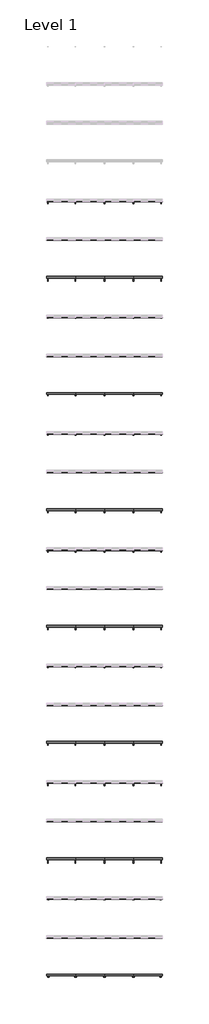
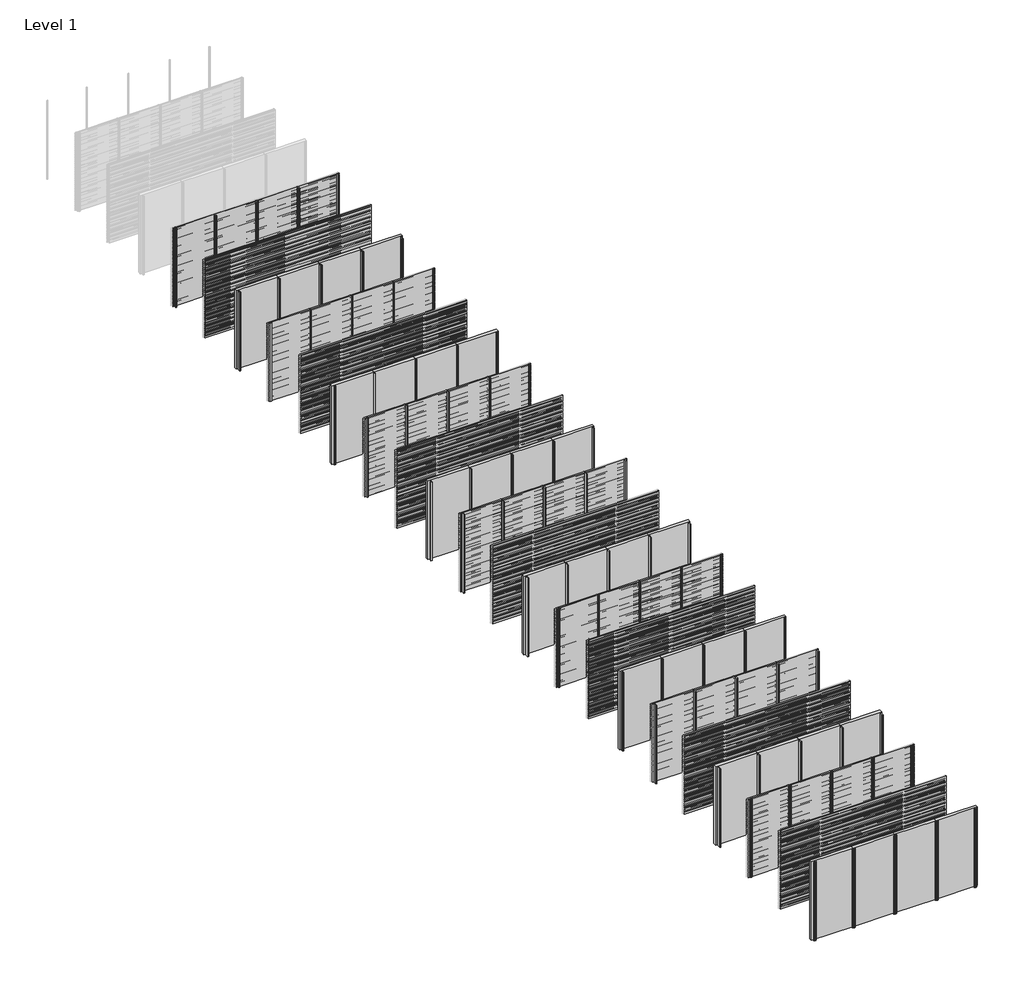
# One storey, part 1 of 173: 70 members, 63 plates.
"""IFC4 building model written with IfcOpenShell, lengths in millimetres."""

from ifc_helpers import new_model, si_unit, origin, origin_with_axes, place, context, project, spatial, polyline, outline, extrude, transform, mapped, element, save
from components import rectangular_mullion_fb497acc, rectangular_mullion_3facce28, rectangular_mullion_6cf2c509, rectangular_mullion_8b77bd57, rectangular_mullion_2c867e25, rectangular_mullion_7803f5c4, rectangular_mullion_82152e2f, rectangular_mullion_bd250e2e, rectangular_mullion_7b49c8f1, rectangular_mullion_2b84ad7e, rectangular_mullion_0fd695e7, rectangular_mullion_9b796d85, rectangular_mullion_dfb17e98, rectangular_mullion_6132f1f1, rectangular_mullion_8f153c19, rectangular_mullion_5b30f3fd, rectangular_mullion_5e0e8e0a, rectangular_mullion_d2d38772, rectangular_mullion_efb80f74, rectangular_mullion_aaa1fb1b, rectangular_mullion_ea9d012c, empty_system_panel_empty_413cb92e

model = new_model("IFC4")

# Units and contexts
model_context = context("Model", 3, world=origin())
ifc_project = project(units=[si_unit("LENGTHUNIT", "METRE", prefix="MILLI")], contexts=[model_context])

# Site, building, storey
site = spatial("IfcSite", under=ifc_project)
building = spatial("IfcBuilding", under=site)
storey = spatial("IfcBuildingStorey", under=building, Name="Level 1", Elevation=0.0)

# Members
placement = place(None, origin())
rectangular_mullion_shape = rectangular_mullion_fb497acc(model_context)
element("IfcMember", 1, ObjectType="Rectangular Mullion : NLRS_21_CWM_drager LD.0995_Storax", at=placement, inside=storey, context=model_context, shape_type="MappedRepresentation", body=[
    mapped(rectangular_mullion_shape, transform((4500.0, -18000.0, 0.0), x_axis=(-1.0, 0.0, 0.0), y_axis=(0.0, 1.0, 0.0), z_axis=(0.0, 0.0, -1.0))),
])
element("IfcMember", 2, ObjectType="Rectangular Mullion : NLRS_21_CWM_drager LD.0995_Storax", at=placement, inside=storey, context=model_context, shape_type="MappedRepresentation", body=[
    mapped(rectangular_mullion_shape, transform((3000.0, -18000.0, 0.0), x_axis=(-1.0, 0.0, 0.0), y_axis=(0.0, 1.0, 0.0), z_axis=(0.0, 0.0, -1.0))),
])
element("IfcMember", 3, ObjectType="Rectangular Mullion : NLRS_21_CWM_drager LD.0995_Storax", at=placement, inside=storey, context=model_context, shape_type="MappedRepresentation", body=[
    mapped(rectangular_mullion_shape, transform((1500.0, -18000.0, 0.0), x_axis=(-1.0, 0.0, 0.0), y_axis=(0.0, 1.0, 0.0), z_axis=(0.0, 0.0, -1.0))),
])
element("IfcMember", 4, ObjectType="Rectangular Mullion : NLRS_21_CWM_drager LD.0995_Storax", at=placement, inside=storey, context=model_context, shape_type="MappedRepresentation", body=[
    mapped(rectangular_mullion_shape, transform((4500.0, -22000.0, 0.0), x_axis=(-1.0, 0.0, 0.0), y_axis=(0.0, 1.0, 0.0), z_axis=(0.0, 0.0, -1.0))),
])
element("IfcMember", 5, ObjectType="Rectangular Mullion : NLRS_21_CWM_drager LD.0995_Storax", at=placement, inside=storey, context=model_context, shape_type="MappedRepresentation", body=[
    mapped(rectangular_mullion_shape, transform((3000.0, -22000.0, 0.0), x_axis=(-1.0, 0.0, 0.0), y_axis=(0.0, 1.0, 0.0), z_axis=(0.0, 0.0, -1.0))),
])
element("IfcMember", 6, ObjectType="Rectangular Mullion : NLRS_21_CWM_drager LD.0995_Storax", at=placement, inside=storey, context=model_context, shape_type="MappedRepresentation", body=[
    mapped(rectangular_mullion_shape, transform((1500.0, -22000.0, 0.0), x_axis=(-1.0, 0.0, 0.0), y_axis=(0.0, 1.0, 0.0), z_axis=(0.0, 0.0, -1.0))),
])
rectangular_mullion_2_shape = rectangular_mullion_3facce28(model_context)
element("IfcMember", 7, ObjectType="Rectangular Mullion : NLRS_21_CWM_drager SD.014_Storax", at=placement, inside=storey, context=model_context, shape_type="MappedRepresentation", body=[
    mapped(rectangular_mullion_2_shape, transform((4500.0, -24000.0, 0.0), x_axis=(-1.0, 0.0, 0.0), y_axis=(0.0, 1.0, 0.0), z_axis=(0.0, 0.0, -1.0))),
])
element("IfcMember", 8, ObjectType="Rectangular Mullion : NLRS_21_CWM_drager SD.014_Storax", at=placement, inside=storey, context=model_context, shape_type="MappedRepresentation", body=[
    mapped(rectangular_mullion_2_shape, transform((3000.0, -24000.0, 0.0), x_axis=(-1.0, 0.0, 0.0), y_axis=(0.0, 1.0, 0.0), z_axis=(0.0, 0.0, -1.0))),
])
element("IfcMember", 9, ObjectType="Rectangular Mullion : NLRS_21_CWM_drager SD.014_Storax", at=placement, inside=storey, context=model_context, shape_type="MappedRepresentation", body=[
    mapped(rectangular_mullion_2_shape, transform((1500.0, -24000.0, 0.0), x_axis=(-1.0, 0.0, 0.0), y_axis=(0.0, 1.0, 0.0), z_axis=(0.0, 0.0, -1.0))),
])
element("IfcMember", 10, ObjectType="Rectangular Mullion : NLRS_21_CWM_drager SD.014_Storax", at=placement, inside=storey, context=model_context, shape_type="MappedRepresentation", body=[
    mapped(rectangular_mullion_2_shape, transform((4500.0, -28000.0, 0.0), x_axis=(-1.0, 0.0, 0.0), y_axis=(0.0, 1.0, 0.0), z_axis=(0.0, 0.0, -1.0))),
])
element("IfcMember", 11, ObjectType="Rectangular Mullion : NLRS_21_CWM_drager SD.014_Storax", at=placement, inside=storey, context=model_context, shape_type="MappedRepresentation", body=[
    mapped(rectangular_mullion_2_shape, transform((3000.0, -28000.0, 0.0), x_axis=(-1.0, 0.0, 0.0), y_axis=(0.0, 1.0, 0.0), z_axis=(0.0, 0.0, -1.0))),
])
element("IfcMember", 12, ObjectType="Rectangular Mullion : NLRS_21_CWM_drager SD.014_Storax", at=placement, inside=storey, context=model_context, shape_type="MappedRepresentation", body=[
    mapped(rectangular_mullion_2_shape, transform((1500.0, -28000.0, 0.0), x_axis=(-1.0, 0.0, 0.0), y_axis=(0.0, 1.0, 0.0), z_axis=(0.0, 0.0, -1.0))),
])
rectangular_mullion_3_shape = rectangular_mullion_6cf2c509(model_context)
element("IfcMember", 13, ObjectType="Rectangular Mullion : NLRS_21_CWM_drager SD.054_Storax", at=placement, inside=storey, context=model_context, shape_type="MappedRepresentation", body=[
    mapped(rectangular_mullion_3_shape, transform((4500.0, -30000.0, 0.0), x_axis=(-1.0, 0.0, 0.0), y_axis=(0.0, 1.0, 0.0), z_axis=(0.0, 0.0, -1.0))),
])
element("IfcMember", 14, ObjectType="Rectangular Mullion : NLRS_21_CWM_drager SD.054_Storax", at=placement, inside=storey, context=model_context, shape_type="MappedRepresentation", body=[
    mapped(rectangular_mullion_3_shape, transform((3000.0, -30000.0, 0.0), x_axis=(-1.0, 0.0, 0.0), y_axis=(0.0, 1.0, 0.0), z_axis=(0.0, 0.0, -1.0))),
])
element("IfcMember", 15, ObjectType="Rectangular Mullion : NLRS_21_CWM_drager SD.054_Storax", at=placement, inside=storey, context=model_context, shape_type="MappedRepresentation", body=[
    mapped(rectangular_mullion_3_shape, transform((1500.0, -30000.0, 0.0), x_axis=(-1.0, 0.0, 0.0), y_axis=(0.0, 1.0, 0.0), z_axis=(0.0, 0.0, -1.0))),
])
element("IfcMember", 16, ObjectType="Rectangular Mullion : NLRS_21_CWM_drager SD.054_Storax", at=placement, inside=storey, context=model_context, shape_type="MappedRepresentation", body=[
    mapped(rectangular_mullion_3_shape, transform((4500.0, -34000.0, 0.0), x_axis=(-1.0, 0.0, 0.0), y_axis=(0.0, 1.0, 0.0), z_axis=(0.0, 0.0, -1.0))),
])
element("IfcMember", 17, ObjectType="Rectangular Mullion : NLRS_21_CWM_drager SD.054_Storax", at=placement, inside=storey, context=model_context, shape_type="MappedRepresentation", body=[
    mapped(rectangular_mullion_3_shape, transform((3000.0, -34000.0, 0.0), x_axis=(-1.0, 0.0, 0.0), y_axis=(0.0, 1.0, 0.0), z_axis=(0.0, 0.0, -1.0))),
])
element("IfcMember", 18, ObjectType="Rectangular Mullion : NLRS_21_CWM_drager SD.054_Storax", at=placement, inside=storey, context=model_context, shape_type="MappedRepresentation", body=[
    mapped(rectangular_mullion_3_shape, transform((1500.0, -34000.0, 0.0), x_axis=(-1.0, 0.0, 0.0), y_axis=(0.0, 1.0, 0.0), z_axis=(0.0, 0.0, -1.0))),
])
rectangular_mullion_4_shape = rectangular_mullion_8b77bd57(model_context)
element("IfcMember", 19, ObjectType="Rectangular Mullion : NLRS_21_CWM_drager SD.100_Storax", at=placement, inside=storey, context=model_context, shape_type="MappedRepresentation", body=[
    mapped(rectangular_mullion_4_shape, transform((4500.0, -36000.0, 0.0), x_axis=(-1.0, 0.0, 0.0), y_axis=(0.0, 1.0, 0.0), z_axis=(0.0, 0.0, -1.0))),
])
element("IfcMember", 20, ObjectType="Rectangular Mullion : NLRS_21_CWM_drager SD.100_Storax", at=placement, inside=storey, context=model_context, shape_type="MappedRepresentation", body=[
    mapped(rectangular_mullion_4_shape, transform((3000.0, -36000.0, 0.0), x_axis=(-1.0, 0.0, 0.0), y_axis=(0.0, 1.0, 0.0), z_axis=(0.0, 0.0, -1.0))),
])
element("IfcMember", 21, ObjectType="Rectangular Mullion : NLRS_21_CWM_drager SD.100_Storax", at=placement, inside=storey, context=model_context, shape_type="MappedRepresentation", body=[
    mapped(rectangular_mullion_4_shape, transform((1500.0, -36000.0, 0.0), x_axis=(-1.0, 0.0, 0.0), y_axis=(0.0, 1.0, 0.0), z_axis=(0.0, 0.0, -1.0))),
])
element("IfcMember", 22, ObjectType="Rectangular Mullion : NLRS_21_CWM_drager SD.100_Storax", at=placement, inside=storey, context=model_context, shape_type="MappedRepresentation", body=[
    mapped(rectangular_mullion_4_shape, transform((4500.0, -40000.0, 0.0), x_axis=(-1.0, 0.0, 0.0), y_axis=(0.0, 1.0, 0.0), z_axis=(0.0, 0.0, -1.0))),
])
element("IfcMember", 23, ObjectType="Rectangular Mullion : NLRS_21_CWM_drager SD.100_Storax", at=placement, inside=storey, context=model_context, shape_type="MappedRepresentation", body=[
    mapped(rectangular_mullion_4_shape, transform((3000.0, -40000.0, 0.0), x_axis=(-1.0, 0.0, 0.0), y_axis=(0.0, 1.0, 0.0), z_axis=(0.0, 0.0, -1.0))),
])
element("IfcMember", 24, ObjectType="Rectangular Mullion : NLRS_21_CWM_drager SD.100_Storax", at=placement, inside=storey, context=model_context, shape_type="MappedRepresentation", body=[
    mapped(rectangular_mullion_4_shape, transform((1500.0, -40000.0, 0.0), x_axis=(-1.0, 0.0, 0.0), y_axis=(0.0, 1.0, 0.0), z_axis=(0.0, 0.0, -1.0))),
])
rectangular_mullion_5_shape = rectangular_mullion_2c867e25(model_context)
element("IfcMember", 25, ObjectType="Rectangular Mullion : NLRS_21_CWM_drager LD.0440_Storax", at=placement, inside=storey, context=model_context, shape_type="MappedRepresentation", body=[
    mapped(rectangular_mullion_5_shape, transform((4500.0, -42000.0, 0.0), x_axis=(-1.0, 0.0, 0.0), y_axis=(0.0, 1.0, 0.0), z_axis=(0.0, 0.0, -1.0))),
])
element("IfcMember", 26, ObjectType="Rectangular Mullion : NLRS_21_CWM_drager LD.0440_Storax", at=placement, inside=storey, context=model_context, shape_type="MappedRepresentation", body=[
    mapped(rectangular_mullion_5_shape, transform((3000.0, -42000.0, 0.0), x_axis=(-1.0, 0.0, 0.0), y_axis=(0.0, 1.0, 0.0), z_axis=(0.0, 0.0, -1.0))),
])
element("IfcMember", 27, ObjectType="Rectangular Mullion : NLRS_21_CWM_drager LD.0440_Storax", at=placement, inside=storey, context=model_context, shape_type="MappedRepresentation", body=[
    mapped(rectangular_mullion_5_shape, transform((1500.0, -42000.0, 0.0), x_axis=(-1.0, 0.0, 0.0), y_axis=(0.0, 1.0, 0.0), z_axis=(0.0, 0.0, -1.0))),
])
element("IfcMember", 28, ObjectType="Rectangular Mullion : NLRS_21_CWM_drager LD.0440_Storax", at=placement, inside=storey, context=model_context, shape_type="MappedRepresentation", body=[
    mapped(rectangular_mullion_5_shape, transform((4500.0, -46000.0, 0.0), x_axis=(-1.0, 0.0, 0.0), y_axis=(0.0, 1.0, 0.0), z_axis=(0.0, 0.0, -1.0))),
])
element("IfcMember", 29, ObjectType="Rectangular Mullion : NLRS_21_CWM_drager LD.0440_Storax", at=placement, inside=storey, context=model_context, shape_type="MappedRepresentation", body=[
    mapped(rectangular_mullion_5_shape, transform((3000.0, -46000.0, 0.0), x_axis=(-1.0, 0.0, 0.0), y_axis=(0.0, 1.0, 0.0), z_axis=(0.0, 0.0, -1.0))),
])
element("IfcMember", 30, ObjectType="Rectangular Mullion : NLRS_21_CWM_drager LD.0440_Storax", at=placement, inside=storey, context=model_context, shape_type="MappedRepresentation", body=[
    mapped(rectangular_mullion_5_shape, transform((1500.0, -46000.0, 0.0), x_axis=(-1.0, 0.0, 0.0), y_axis=(0.0, 1.0, 0.0), z_axis=(0.0, 0.0, -1.0))),
])
rectangular_mullion_6_shape = rectangular_mullion_7803f5c4(model_context)
element("IfcMember", 31, ObjectType="Rectangular Mullion : NLRS_21_CWM_drager LD.1250_Storax", at=placement, inside=storey, context=model_context, shape_type="MappedRepresentation", body=[
    mapped(rectangular_mullion_6_shape, transform((4500.0, -48000.0, 0.0), x_axis=(-1.0, 0.0, 0.0), y_axis=(0.0, 1.0, 0.0), z_axis=(0.0, 0.0, -1.0))),
])
element("IfcMember", 32, ObjectType="Rectangular Mullion : NLRS_21_CWM_drager LD.1250_Storax", at=placement, inside=storey, context=model_context, shape_type="MappedRepresentation", body=[
    mapped(rectangular_mullion_6_shape, transform((3000.0, -48000.0, 0.0), x_axis=(-1.0, 0.0, 0.0), y_axis=(0.0, 1.0, 0.0), z_axis=(0.0, 0.0, -1.0))),
])
element("IfcMember", 33, ObjectType="Rectangular Mullion : NLRS_21_CWM_drager LD.1250_Storax", at=placement, inside=storey, context=model_context, shape_type="MappedRepresentation", body=[
    mapped(rectangular_mullion_6_shape, transform((1500.0, -48000.0, 0.0), x_axis=(-1.0, 0.0, 0.0), y_axis=(0.0, 1.0, 0.0), z_axis=(0.0, 0.0, -1.0))),
])
element("IfcMember", 34, ObjectType="Rectangular Mullion : NLRS_21_CWM_drager LD.1250_Storax", at=placement, inside=storey, context=model_context, shape_type="MappedRepresentation", body=[
    mapped(rectangular_mullion_6_shape, transform((4500.0, -52000.0, 0.0), x_axis=(-1.0, 0.0, 0.0), y_axis=(0.0, 1.0, 0.0), z_axis=(0.0, 0.0, -1.0))),
])
element("IfcMember", 35, ObjectType="Rectangular Mullion : NLRS_21_CWM_drager LD.1250_Storax", at=placement, inside=storey, context=model_context, shape_type="MappedRepresentation", body=[
    mapped(rectangular_mullion_6_shape, transform((3000.0, -52000.0, 0.0), x_axis=(-1.0, 0.0, 0.0), y_axis=(0.0, 1.0, 0.0), z_axis=(0.0, 0.0, -1.0))),
])
element("IfcMember", 36, ObjectType="Rectangular Mullion : NLRS_21_CWM_drager LD.1250_Storax", at=placement, inside=storey, context=model_context, shape_type="MappedRepresentation", body=[
    mapped(rectangular_mullion_6_shape, transform((1500.0, -52000.0, 0.0), x_axis=(-1.0, 0.0, 0.0), y_axis=(0.0, 1.0, 0.0), z_axis=(0.0, 0.0, -1.0))),
])
rectangular_mullion_7_shape = rectangular_mullion_82152e2f(model_context)
element("IfcMember", 37, ObjectType="Rectangular Mullion : NLRS_21_CWM_drager LD.0240_Storax", at=placement, inside=storey, context=model_context, shape_type="MappedRepresentation", body=[
    mapped(rectangular_mullion_7_shape, transform((4500.0, -54000.0, 0.0), x_axis=(-1.0, 0.0, 0.0), y_axis=(0.0, 1.0, 0.0), z_axis=(0.0, 0.0, -1.0))),
])
element("IfcMember", 38, ObjectType="Rectangular Mullion : NLRS_21_CWM_drager LD.0240_Storax", at=placement, inside=storey, context=model_context, shape_type="MappedRepresentation", body=[
    mapped(rectangular_mullion_7_shape, transform((3000.0, -54000.0, 0.0), x_axis=(-1.0, 0.0, 0.0), y_axis=(0.0, 1.0, 0.0), z_axis=(0.0, 0.0, -1.0))),
])
element("IfcMember", 39, ObjectType="Rectangular Mullion : NLRS_21_CWM_drager LD.0240_Storax", at=placement, inside=storey, context=model_context, shape_type="MappedRepresentation", body=[
    mapped(rectangular_mullion_7_shape, transform((1500.0, -54000.0, 0.0), x_axis=(-1.0, 0.0, 0.0), y_axis=(0.0, 1.0, 0.0), z_axis=(0.0, 0.0, -1.0))),
])
element("IfcMember", 40, ObjectType="Rectangular Mullion : NLRS_21_CWM_drager LD.0240_Storax", at=placement, inside=storey, context=model_context, shape_type="MappedRepresentation", body=[
    mapped(rectangular_mullion_7_shape, transform((4500.0, -58000.0, 0.0), x_axis=(-1.0, 0.0, 0.0), y_axis=(0.0, 1.0, 0.0), z_axis=(0.0, 0.0, -1.0))),
])
element("IfcMember", 41, ObjectType="Rectangular Mullion : NLRS_21_CWM_drager LD.0240_Storax", at=placement, inside=storey, context=model_context, shape_type="MappedRepresentation", body=[
    mapped(rectangular_mullion_7_shape, transform((3000.0, -58000.0, 0.0), x_axis=(-1.0, 0.0, 0.0), y_axis=(0.0, 1.0, 0.0), z_axis=(0.0, 0.0, -1.0))),
])
element("IfcMember", 42, ObjectType="Rectangular Mullion : NLRS_21_CWM_drager LD.0240_Storax", at=placement, inside=storey, context=model_context, shape_type="MappedRepresentation", body=[
    mapped(rectangular_mullion_7_shape, transform((1500.0, -58000.0, 0.0), x_axis=(-1.0, 0.0, 0.0), y_axis=(0.0, 1.0, 0.0), z_axis=(0.0, 0.0, -1.0))),
])
rectangular_mullion_8_shape = rectangular_mullion_bd250e2e(model_context)
element("IfcMember", 43, ObjectType="Rectangular Mullion : NLRS_21_CWM_drager LD.0995 - links_Storax", at=placement, inside=storey, context=model_context, shape_type="MappedRepresentation", body=[
    mapped(rectangular_mullion_8_shape, transform((0.0, -18000.0, 0.0), x_axis=(-1.0, 0.0, 0.0), y_axis=(0.0, 1.0, 0.0), z_axis=(0.0, 0.0, -1.0))),
])
element("IfcMember", 44, ObjectType="Rectangular Mullion : NLRS_21_CWM_drager LD.0995 - links_Storax", at=placement, inside=storey, context=model_context, shape_type="MappedRepresentation", body=[
    mapped(rectangular_mullion_8_shape, transform((0.0, -22000.0, 0.0), x_axis=(-1.0, 0.0, 0.0), y_axis=(0.0, 1.0, 0.0), z_axis=(0.0, 0.0, -1.0))),
])
rectangular_mullion_9_shape = rectangular_mullion_7b49c8f1(model_context)
element("IfcMember", 45, ObjectType="Rectangular Mullion : NLRS_21_CWM_drager LD.0995 - rechts_Storax", at=placement, inside=storey, context=model_context, shape_type="MappedRepresentation", body=[
    mapped(rectangular_mullion_9_shape, transform((6000.0, -18000.0, 3000.0), x_axis=(1.0, 0.0, 0.0), y_axis=(0.0, 1.0, 0.0), z_axis=(0.0, 0.0, 1.0))),
])
element("IfcMember", 46, ObjectType="Rectangular Mullion : NLRS_21_CWM_drager LD.0995 - rechts_Storax", at=placement, inside=storey, context=model_context, shape_type="MappedRepresentation", body=[
    mapped(rectangular_mullion_9_shape, transform((6000.0, -22000.0, 3000.0), x_axis=(1.0, 0.0, 0.0), y_axis=(0.0, 1.0, 0.0), z_axis=(0.0, 0.0, 1.0))),
])
rectangular_mullion_10_shape = rectangular_mullion_2b84ad7e(model_context)
element("IfcMember", 47, ObjectType="Rectangular Mullion : NLRS_21_CWM_drager SD.014 - links_Storax", at=placement, inside=storey, context=model_context, shape_type="MappedRepresentation", body=[
    mapped(rectangular_mullion_10_shape, transform((0.0, -24000.0, 0.0), x_axis=(-1.0, 0.0, 0.0), y_axis=(0.0, 1.0, 0.0), z_axis=(0.0, 0.0, -1.0))),
])
element("IfcMember", 48, ObjectType="Rectangular Mullion : NLRS_21_CWM_drager SD.014 - links_Storax", at=placement, inside=storey, context=model_context, shape_type="MappedRepresentation", body=[
    mapped(rectangular_mullion_10_shape, transform((0.0, -28000.0, 0.0), x_axis=(-1.0, 0.0, 0.0), y_axis=(0.0, 1.0, 0.0), z_axis=(0.0, 0.0, -1.0))),
])
rectangular_mullion_11_shape = rectangular_mullion_0fd695e7(model_context)
element("IfcMember", 49, ObjectType="Rectangular Mullion : NLRS_21_CWM_drager SD.014 - rechts_Storax", at=placement, inside=storey, context=model_context, shape_type="MappedRepresentation", body=[
    mapped(rectangular_mullion_11_shape, transform((6000.0, -24000.0, 3000.0), x_axis=(1.0, 0.0, 0.0), y_axis=(0.0, 1.0, 0.0), z_axis=(0.0, 0.0, 1.0))),
])
element("IfcMember", 50, ObjectType="Rectangular Mullion : NLRS_21_CWM_drager SD.014 - rechts_Storax", at=placement, inside=storey, context=model_context, shape_type="MappedRepresentation", body=[
    mapped(rectangular_mullion_11_shape, transform((6000.0, -28000.0, 3000.0), x_axis=(1.0, 0.0, 0.0), y_axis=(0.0, 1.0, 0.0), z_axis=(0.0, 0.0, 1.0))),
])
rectangular_mullion_12_shape = rectangular_mullion_9b796d85(model_context)
element("IfcMember", 51, ObjectType="Rectangular Mullion : NLRS_21_CWM_drager SD.054 - links_Storax", at=placement, inside=storey, context=model_context, shape_type="MappedRepresentation", body=[
    mapped(rectangular_mullion_12_shape, transform((0.0, -30000.0, 0.0), x_axis=(-1.0, 0.0, 0.0), y_axis=(0.0, 1.0, 0.0), z_axis=(0.0, 0.0, -1.0))),
])
element("IfcMember", 52, ObjectType="Rectangular Mullion : NLRS_21_CWM_drager SD.054 - links_Storax", at=placement, inside=storey, context=model_context, shape_type="MappedRepresentation", body=[
    mapped(rectangular_mullion_12_shape, transform((0.0, -34000.0, 0.0), x_axis=(-1.0, 0.0, 0.0), y_axis=(0.0, 1.0, 0.0), z_axis=(0.0, 0.0, -1.0))),
])
rectangular_mullion_13_shape = rectangular_mullion_dfb17e98(model_context)
element("IfcMember", 53, ObjectType="Rectangular Mullion : NLRS_21_CWM_drager SD.054 - rechts_Storax", at=placement, inside=storey, context=model_context, shape_type="MappedRepresentation", body=[
    mapped(rectangular_mullion_13_shape, transform((6000.0, -30000.0, 3000.0), x_axis=(1.0, 0.0, 0.0), y_axis=(0.0, 1.0, 0.0), z_axis=(0.0, 0.0, 1.0))),
])
element("IfcMember", 54, ObjectType="Rectangular Mullion : NLRS_21_CWM_drager SD.054 - rechts_Storax", at=placement, inside=storey, context=model_context, shape_type="MappedRepresentation", body=[
    mapped(rectangular_mullion_13_shape, transform((6000.0, -34000.0, 3000.0), x_axis=(1.0, 0.0, 0.0), y_axis=(0.0, 1.0, 0.0), z_axis=(0.0, 0.0, 1.0))),
])
rectangular_mullion_14_shape = rectangular_mullion_6132f1f1(model_context)
element("IfcMember", 55, ObjectType="Rectangular Mullion : NLRS_21_CWM_drager SD.100 - links_Storax", at=placement, inside=storey, context=model_context, shape_type="MappedRepresentation", body=[
    mapped(rectangular_mullion_14_shape, transform((0.0, -36000.0, 0.0), x_axis=(-1.0, 0.0, 0.0), y_axis=(0.0, 1.0, 0.0), z_axis=(0.0, 0.0, -1.0))),
])
element("IfcMember", 56, ObjectType="Rectangular Mullion : NLRS_21_CWM_drager SD.100 - links_Storax", at=placement, inside=storey, context=model_context, shape_type="MappedRepresentation", body=[
    mapped(rectangular_mullion_14_shape, transform((0.0, -40000.0, 0.0), x_axis=(-1.0, 0.0, 0.0), y_axis=(0.0, 1.0, 0.0), z_axis=(0.0, 0.0, -1.0))),
])
rectangular_mullion_15_shape = rectangular_mullion_8f153c19(model_context)
element("IfcMember", 57, ObjectType="Rectangular Mullion : NLRS_21_CWM_drager SD.100 - rechts_Storax", at=placement, inside=storey, context=model_context, shape_type="MappedRepresentation", body=[
    mapped(rectangular_mullion_15_shape, transform((6000.0, -36000.0, 3000.0), x_axis=(1.0, 0.0, 0.0), y_axis=(0.0, 1.0, 0.0), z_axis=(0.0, 0.0, 1.0))),
])
element("IfcMember", 58, ObjectType="Rectangular Mullion : NLRS_21_CWM_drager SD.100 - rechts_Storax", at=placement, inside=storey, context=model_context, shape_type="MappedRepresentation", body=[
    mapped(rectangular_mullion_15_shape, transform((6000.0, -40000.0, 3000.0), x_axis=(1.0, 0.0, 0.0), y_axis=(0.0, 1.0, 0.0), z_axis=(0.0, 0.0, 1.0))),
])
rectangular_mullion_16_shape = rectangular_mullion_5b30f3fd(model_context)
element("IfcMember", 59, ObjectType="Rectangular Mullion : NLRS_21_CWM_drager LD.0440 - links_Storax", at=placement, inside=storey, context=model_context, shape_type="MappedRepresentation", body=[
    mapped(rectangular_mullion_16_shape, transform((0.0, -42000.0, 0.0), x_axis=(-1.0, 0.0, 0.0), y_axis=(0.0, 1.0, 0.0), z_axis=(0.0, 0.0, -1.0))),
])
element("IfcMember", 60, ObjectType="Rectangular Mullion : NLRS_21_CWM_drager LD.0440 - links_Storax", at=placement, inside=storey, context=model_context, shape_type="MappedRepresentation", body=[
    mapped(rectangular_mullion_16_shape, transform((0.0, -46000.0, 0.0), x_axis=(-1.0, 0.0, 0.0), y_axis=(0.0, 1.0, 0.0), z_axis=(0.0, 0.0, -1.0))),
])
rectangular_mullion_17_shape = rectangular_mullion_5e0e8e0a(model_context)
element("IfcMember", 61, ObjectType="Rectangular Mullion : NLRS_21_CWM_drager LD.0440 - rechts_Storax", at=placement, inside=storey, context=model_context, shape_type="MappedRepresentation", body=[
    mapped(rectangular_mullion_17_shape, transform((6000.0, -42000.0, 3000.0), x_axis=(1.0, 0.0, 0.0), y_axis=(0.0, 1.0, 0.0), z_axis=(0.0, 0.0, 1.0))),
])
element("IfcMember", 62, ObjectType="Rectangular Mullion : NLRS_21_CWM_drager LD.0440 - rechts_Storax", at=placement, inside=storey, context=model_context, shape_type="MappedRepresentation", body=[
    mapped(rectangular_mullion_17_shape, transform((6000.0, -46000.0, 3000.0), x_axis=(1.0, 0.0, 0.0), y_axis=(0.0, 1.0, 0.0), z_axis=(0.0, 0.0, 1.0))),
])
rectangular_mullion_18_shape = rectangular_mullion_d2d38772(model_context)
element("IfcMember", 63, ObjectType="Rectangular Mullion : NLRS_21_CWM_drager LD.1250 - links_Storax", at=placement, inside=storey, context=model_context, shape_type="MappedRepresentation", body=[
    mapped(rectangular_mullion_18_shape, transform((0.0, -48000.0, 0.0), x_axis=(-1.0, 0.0, 0.0), y_axis=(0.0, 1.0, 0.0), z_axis=(0.0, 0.0, -1.0))),
])
element("IfcMember", 64, ObjectType="Rectangular Mullion : NLRS_21_CWM_drager LD.1250 - links_Storax", at=placement, inside=storey, context=model_context, shape_type="MappedRepresentation", body=[
    mapped(rectangular_mullion_18_shape, transform((0.0, -52000.0, 0.0), x_axis=(-1.0, 0.0, 0.0), y_axis=(0.0, 1.0, 0.0), z_axis=(0.0, 0.0, -1.0))),
])
rectangular_mullion_19_shape = rectangular_mullion_efb80f74(model_context)
element("IfcMember", 65, ObjectType="Rectangular Mullion : NLRS_21_CWM_drager LD.1250 - rechts_Storax", at=placement, inside=storey, context=model_context, shape_type="MappedRepresentation", body=[
    mapped(rectangular_mullion_19_shape, transform((6000.0, -48000.0, 3000.0), x_axis=(1.0, 0.0, 0.0), y_axis=(0.0, 1.0, 0.0), z_axis=(0.0, 0.0, 1.0))),
])
element("IfcMember", 66, ObjectType="Rectangular Mullion : NLRS_21_CWM_drager LD.1250 - rechts_Storax", at=placement, inside=storey, context=model_context, shape_type="MappedRepresentation", body=[
    mapped(rectangular_mullion_19_shape, transform((6000.0, -52000.0, 3000.0), x_axis=(1.0, 0.0, 0.0), y_axis=(0.0, 1.0, 0.0), z_axis=(0.0, 0.0, 1.0))),
])
rectangular_mullion_20_shape = rectangular_mullion_aaa1fb1b(model_context)
element("IfcMember", 67, ObjectType="Rectangular Mullion : NLRS_21_CWM_drager LD.0240 - links_Storax", at=placement, inside=storey, context=model_context, shape_type="MappedRepresentation", body=[
    mapped(rectangular_mullion_20_shape, transform((0.0, -54000.0, 0.0), x_axis=(-1.0, 0.0, 0.0), y_axis=(0.0, 1.0, 0.0), z_axis=(0.0, 0.0, -1.0))),
])
element("IfcMember", 68, ObjectType="Rectangular Mullion : NLRS_21_CWM_drager LD.0240 - links_Storax", at=placement, inside=storey, context=model_context, shape_type="MappedRepresentation", body=[
    mapped(rectangular_mullion_20_shape, transform((0.0, -58000.0, 0.0), x_axis=(-1.0, 0.0, 0.0), y_axis=(0.0, 1.0, 0.0), z_axis=(0.0, 0.0, -1.0))),
])
rectangular_mullion_21_shape = rectangular_mullion_ea9d012c(model_context)
element("IfcMember", 69, ObjectType="Rectangular Mullion : NLRS_21_CWM_drager LD.0240 - rechts_Storax", at=placement, inside=storey, context=model_context, shape_type="MappedRepresentation", body=[
    mapped(rectangular_mullion_21_shape, transform((6000.0, -54000.0, 3000.0), x_axis=(1.0, 0.0, 0.0), y_axis=(0.0, 1.0, 0.0), z_axis=(0.0, 0.0, 1.0))),
])
element("IfcMember", 70, ObjectType="Rectangular Mullion : NLRS_21_CWM_drager LD.0240 - rechts_Storax", at=placement, inside=storey, context=model_context, shape_type="MappedRepresentation", body=[
    mapped(rectangular_mullion_21_shape, transform((6000.0, -58000.0, 3000.0), x_axis=(1.0, 0.0, 0.0), y_axis=(0.0, 1.0, 0.0), z_axis=(0.0, 0.0, 1.0))),
])

# Plates
element("IfcPlate", 71, ObjectType="NLRS_21_WA_lamellenwand Linius - L.050W_Storax", at=placement, inside=storey, context=model_context, shape_type="SweptSolid", body=[
    extrude(outline(polyline([(0.0, -17999.0), (1500.0, -17999.0), (1500.0, -18001.0), (0.0, -18001.0), (0.0, -17999.0)])), origin_with_axes(), (0.0, 0.0, 1.0), 3000.0),
])
element("IfcPlate", 72, ObjectType="NLRS_21_WA_lamellenwand Linius - L.050W_Storax", at=placement, inside=storey, context=model_context, shape_type="SweptSolid", body=[
    extrude(outline(polyline([(1500.0, -17999.0), (3000.0, -17999.0), (3000.0, -18001.0), (1500.0, -18001.0), (1500.0, -17999.0)])), origin_with_axes(), (0.0, 0.0, 1.0), 3000.0),
])
element("IfcPlate", 73, ObjectType="NLRS_21_WA_lamellenwand Linius - L.050W_Storax", at=placement, inside=storey, context=model_context, shape_type="SweptSolid", body=[
    extrude(outline(polyline([(3000.0, -17999.0), (4500.0, -17999.0), (4500.0, -18001.0), (3000.0, -18001.0), (3000.0, -17999.0)])), origin_with_axes(), (0.0, 0.0, 1.0), 3000.0),
])
element("IfcPlate", 74, ObjectType="NLRS_21_WA_lamellenwand Linius - L.050W_Storax", at=placement, inside=storey, context=model_context, shape_type="SweptSolid", body=[
    extrude(outline(polyline([(4500.0, -17999.0), (6000.0, -17999.0), (6000.0, -18001.0), (4500.0, -18001.0), (4500.0, -17999.0)])), origin_with_axes(), (0.0, 0.0, 1.0), 3000.0),
])
element("IfcPlate", 75, ObjectType="NLRS_21_WA_lamellenwand Linius - L.050W_Storax", at=placement, inside=storey, context=model_context, shape_type="SweptSolid", body=[
    extrude(outline(polyline([(0.0, -19999.0), (6000.0, -19999.0), (6000.0, -20001.0), (0.0, -20001.0), (0.0, -19999.0)])), origin_with_axes(), (0.0, 0.0, 1.0), 3000.0),
])
element("IfcPlate", 76, ObjectType="NLRS_21_WA_lamellenwand Linius - L.050W_Storax", at=placement, inside=storey, context=model_context, shape_type="SweptSolid", body=[
    extrude(outline(polyline([(0.0, -23999.0), (1500.0, -23999.0), (1500.0, -24001.0), (0.0, -24001.0), (0.0, -23999.0)])), origin_with_axes(), (0.0, 0.0, 1.0), 3000.0),
])
element("IfcPlate", 77, ObjectType="NLRS_21_WA_lamellenwand Linius - L.050W_Storax", at=placement, inside=storey, context=model_context, shape_type="SweptSolid", body=[
    extrude(outline(polyline([(1500.0, -23999.0), (3000.0, -23999.0), (3000.0, -24001.0), (1500.0, -24001.0), (1500.0, -23999.0)])), origin_with_axes(), (0.0, 0.0, 1.0), 3000.0),
])
element("IfcPlate", 78, ObjectType="NLRS_21_WA_lamellenwand Linius - L.050W_Storax", at=placement, inside=storey, context=model_context, shape_type="SweptSolid", body=[
    extrude(outline(polyline([(3000.0, -23999.0), (4500.0, -23999.0), (4500.0, -24001.0), (3000.0, -24001.0), (3000.0, -23999.0)])), origin_with_axes(), (0.0, 0.0, 1.0), 3000.0),
])
element("IfcPlate", 79, ObjectType="NLRS_21_WA_lamellenwand Linius - L.050W_Storax", at=placement, inside=storey, context=model_context, shape_type="SweptSolid", body=[
    extrude(outline(polyline([(4500.0, -23999.0), (6000.0, -23999.0), (6000.0, -24001.0), (4500.0, -24001.0), (4500.0, -23999.0)])), origin_with_axes(), (0.0, 0.0, 1.0), 3000.0),
])
element("IfcPlate", 80, ObjectType="NLRS_21_WA_lamellenwand Linius - L.050W_Storax", at=placement, inside=storey, context=model_context, shape_type="SweptSolid", body=[
    extrude(outline(polyline([(0.0, -25999.0), (6000.0, -25999.0), (6000.0, -26001.0), (0.0, -26001.0), (0.0, -25999.0)])), origin_with_axes(), (0.0, 0.0, 1.0), 3000.0),
])
element("IfcPlate", 81, ObjectType="NLRS_21_WA_lamellenwand Linius - L.050W_Storax", at=placement, inside=storey, context=model_context, shape_type="SweptSolid", body=[
    extrude(outline(polyline([(0.0, -29999.0), (1500.0, -29999.0), (1500.0, -30001.0), (0.0, -30001.0), (0.0, -29999.0)])), origin_with_axes(), (0.0, 0.0, 1.0), 3000.0),
])
element("IfcPlate", 82, ObjectType="NLRS_21_WA_lamellenwand Linius - L.050W_Storax", at=placement, inside=storey, context=model_context, shape_type="SweptSolid", body=[
    extrude(outline(polyline([(1500.0, -29999.0), (3000.0, -29999.0), (3000.0, -30001.0), (1500.0, -30001.0), (1500.0, -29999.0)])), origin_with_axes(), (0.0, 0.0, 1.0), 3000.0),
])
element("IfcPlate", 83, ObjectType="NLRS_21_WA_lamellenwand Linius - L.050W_Storax", at=placement, inside=storey, context=model_context, shape_type="SweptSolid", body=[
    extrude(outline(polyline([(3000.0, -29999.0), (4500.0, -29999.0), (4500.0, -30001.0), (3000.0, -30001.0), (3000.0, -29999.0)])), origin_with_axes(), (0.0, 0.0, 1.0), 3000.0),
])
element("IfcPlate", 84, ObjectType="NLRS_21_WA_lamellenwand Linius - L.050W_Storax", at=placement, inside=storey, context=model_context, shape_type="SweptSolid", body=[
    extrude(outline(polyline([(4500.0, -29999.0), (6000.0, -29999.0), (6000.0, -30001.0), (4500.0, -30001.0), (4500.0, -29999.0)])), origin_with_axes(), (0.0, 0.0, 1.0), 3000.0),
])
element("IfcPlate", 85, ObjectType="NLRS_21_WA_lamellenwand Linius - L.050W_Storax", at=placement, inside=storey, context=model_context, shape_type="SweptSolid", body=[
    extrude(outline(polyline([(0.0, -31999.0), (6000.0, -31999.0), (6000.0, -32001.0), (0.0, -32001.0), (0.0, -31999.0)])), origin_with_axes(), (0.0, 0.0, 1.0), 3000.0),
])
element("IfcPlate", 86, ObjectType="NLRS_21_WA_lamellenwand Linius - L.050W_Storax", at=placement, inside=storey, context=model_context, shape_type="SweptSolid", body=[
    extrude(outline(polyline([(0.0, -35999.0), (1500.0, -35999.0), (1500.0, -36001.0), (0.0, -36001.0), (0.0, -35999.0)])), origin_with_axes(), (0.0, 0.0, 1.0), 3000.0),
])
element("IfcPlate", 87, ObjectType="NLRS_21_WA_lamellenwand Linius - L.050W_Storax", at=placement, inside=storey, context=model_context, shape_type="SweptSolid", body=[
    extrude(outline(polyline([(1500.0, -35999.0), (3000.0, -35999.0), (3000.0, -36001.0), (1500.0, -36001.0), (1500.0, -35999.0)])), origin_with_axes(), (0.0, 0.0, 1.0), 3000.0),
])
element("IfcPlate", 88, ObjectType="NLRS_21_WA_lamellenwand Linius - L.050W_Storax", at=placement, inside=storey, context=model_context, shape_type="SweptSolid", body=[
    extrude(outline(polyline([(3000.0, -35999.0), (4500.0, -35999.0), (4500.0, -36001.0), (3000.0, -36001.0), (3000.0, -35999.0)])), origin_with_axes(), (0.0, 0.0, 1.0), 3000.0),
])
element("IfcPlate", 89, ObjectType="NLRS_21_WA_lamellenwand Linius - L.050W_Storax", at=placement, inside=storey, context=model_context, shape_type="SweptSolid", body=[
    extrude(outline(polyline([(4500.0, -35999.0), (6000.0, -35999.0), (6000.0, -36001.0), (4500.0, -36001.0), (4500.0, -35999.0)])), origin_with_axes(), (0.0, 0.0, 1.0), 3000.0),
])
element("IfcPlate", 90, ObjectType="NLRS_21_WA_lamellenwand Linius - L.050W_Storax", at=placement, inside=storey, context=model_context, shape_type="SweptSolid", body=[
    extrude(outline(polyline([(0.0, -37999.0), (6000.0, -37999.0), (6000.0, -38001.0), (0.0, -38001.0), (0.0, -37999.0)])), origin_with_axes(), (0.0, 0.0, 1.0), 3000.0),
])
element("IfcPlate", 91, ObjectType="NLRS_21_WA_lamellenwand Linius - L.050W_Storax", at=placement, inside=storey, context=model_context, shape_type="SweptSolid", body=[
    extrude(outline(polyline([(0.0, -41999.0), (1500.0, -41999.0), (1500.0, -42001.0), (0.0, -42001.0), (0.0, -41999.0)])), origin_with_axes(), (0.0, 0.0, 1.0), 3000.0),
])
element("IfcPlate", 92, ObjectType="NLRS_21_WA_lamellenwand Linius - L.050W_Storax", at=placement, inside=storey, context=model_context, shape_type="SweptSolid", body=[
    extrude(outline(polyline([(1500.0, -41999.0), (3000.0, -41999.0), (3000.0, -42001.0), (1500.0, -42001.0), (1500.0, -41999.0)])), origin_with_axes(), (0.0, 0.0, 1.0), 3000.0),
])
element("IfcPlate", 93, ObjectType="NLRS_21_WA_lamellenwand Linius - L.050W_Storax", at=placement, inside=storey, context=model_context, shape_type="SweptSolid", body=[
    extrude(outline(polyline([(3000.0, -41999.0), (4500.0, -41999.0), (4500.0, -42001.0), (3000.0, -42001.0), (3000.0, -41999.0)])), origin_with_axes(), (0.0, 0.0, 1.0), 3000.0),
])
element("IfcPlate", 94, ObjectType="NLRS_21_WA_lamellenwand Linius - L.050W_Storax", at=placement, inside=storey, context=model_context, shape_type="SweptSolid", body=[
    extrude(outline(polyline([(4500.0, -41999.0), (6000.0, -41999.0), (6000.0, -42001.0), (4500.0, -42001.0), (4500.0, -41999.0)])), origin_with_axes(), (0.0, 0.0, 1.0), 3000.0),
])
element("IfcPlate", 95, ObjectType="NLRS_21_WA_lamellenwand Linius - L.050W_Storax", at=placement, inside=storey, context=model_context, shape_type="SweptSolid", body=[
    extrude(outline(polyline([(0.0, -43999.0), (6000.0, -43999.0), (6000.0, -44001.0), (0.0, -44001.0), (0.0, -43999.0)])), origin_with_axes(), (0.0, 0.0, 1.0), 3000.0),
])
element("IfcPlate", 96, ObjectType="NLRS_21_WA_lamellenwand Linius - L.050W_Storax", at=placement, inside=storey, context=model_context, shape_type="SweptSolid", body=[
    extrude(outline(polyline([(0.0, -47999.0), (1500.0, -47999.0), (1500.0, -48001.0), (0.0, -48001.0), (0.0, -47999.0)])), origin_with_axes(), (0.0, 0.0, 1.0), 3000.0),
])
element("IfcPlate", 97, ObjectType="NLRS_21_WA_lamellenwand Linius - L.050W_Storax", at=placement, inside=storey, context=model_context, shape_type="SweptSolid", body=[
    extrude(outline(polyline([(1500.0, -47999.0), (3000.0, -47999.0), (3000.0, -48001.0), (1500.0, -48001.0), (1500.0, -47999.0)])), origin_with_axes(), (0.0, 0.0, 1.0), 3000.0),
])
element("IfcPlate", 98, ObjectType="NLRS_21_WA_lamellenwand Linius - L.050W_Storax", at=placement, inside=storey, context=model_context, shape_type="SweptSolid", body=[
    extrude(outline(polyline([(3000.0, -47999.0), (4500.0, -47999.0), (4500.0, -48001.0), (3000.0, -48001.0), (3000.0, -47999.0)])), origin_with_axes(), (0.0, 0.0, 1.0), 3000.0),
])
element("IfcPlate", 99, ObjectType="NLRS_21_WA_lamellenwand Linius - L.050W_Storax", at=placement, inside=storey, context=model_context, shape_type="SweptSolid", body=[
    extrude(outline(polyline([(4500.0, -47999.0), (6000.0, -47999.0), (6000.0, -48001.0), (4500.0, -48001.0), (4500.0, -47999.0)])), origin_with_axes(), (0.0, 0.0, 1.0), 3000.0),
])
element("IfcPlate", 100, ObjectType="NLRS_21_WA_lamellenwand Linius - L.050W_Storax", at=placement, inside=storey, context=model_context, shape_type="SweptSolid", body=[
    extrude(outline(polyline([(0.0, -49999.0), (6000.0, -49999.0), (6000.0, -50001.0), (0.0, -50001.0), (0.0, -49999.0)])), origin_with_axes(), (0.0, 0.0, 1.0), 3000.0),
])
element("IfcPlate", 101, ObjectType="NLRS_21_WA_lamellenwand Linius - L.050W_Storax", at=placement, inside=storey, context=model_context, shape_type="SweptSolid", body=[
    extrude(outline(polyline([(0.0, -53999.0), (1500.0, -53999.0), (1500.0, -54001.0), (0.0, -54001.0), (0.0, -53999.0)])), origin_with_axes(), (0.0, 0.0, 1.0), 3000.0),
])
element("IfcPlate", 102, ObjectType="NLRS_21_WA_lamellenwand Linius - L.050W_Storax", at=placement, inside=storey, context=model_context, shape_type="SweptSolid", body=[
    extrude(outline(polyline([(1500.0, -53999.0), (3000.0, -53999.0), (3000.0, -54001.0), (1500.0, -54001.0), (1500.0, -53999.0)])), origin_with_axes(), (0.0, 0.0, 1.0), 3000.0),
])
element("IfcPlate", 103, ObjectType="NLRS_21_WA_lamellenwand Linius - L.050W_Storax", at=placement, inside=storey, context=model_context, shape_type="SweptSolid", body=[
    extrude(outline(polyline([(3000.0, -53999.0), (4500.0, -53999.0), (4500.0, -54001.0), (3000.0, -54001.0), (3000.0, -53999.0)])), origin_with_axes(), (0.0, 0.0, 1.0), 3000.0),
])
element("IfcPlate", 104, ObjectType="NLRS_21_WA_lamellenwand Linius - L.050W_Storax", at=placement, inside=storey, context=model_context, shape_type="SweptSolid", body=[
    extrude(outline(polyline([(4500.0, -53999.0), (6000.0, -53999.0), (6000.0, -54001.0), (4500.0, -54001.0), (4500.0, -53999.0)])), origin_with_axes(), (0.0, 0.0, 1.0), 3000.0),
])
element("IfcPlate", 105, ObjectType="NLRS_21_WA_lamellenwand Linius - L.050W_Storax", at=placement, inside=storey, context=model_context, shape_type="SweptSolid", body=[
    extrude(outline(polyline([(0.0, -55999.0), (6000.0, -55999.0), (6000.0, -56001.0), (0.0, -56001.0), (0.0, -55999.0)])), origin_with_axes(), (0.0, 0.0, 1.0), 3000.0),
])
empty_system_panel_empty_shape = empty_system_panel_empty_413cb92e(model_context)
element("IfcPlate", 106, ObjectType="Empty System Panel : Empty", at=placement, inside=storey, context=model_context, shape_type="MappedRepresentation", body=[
    mapped(empty_system_panel_empty_shape, transform((5250.0, -22000.0, 0.0), x_axis=(-1.0, 0.0, 0.0), y_axis=(0.0, -1.0, 0.0), z_axis=(0.0, 0.0, 1.0))),
])
element("IfcPlate", 107, ObjectType="Empty System Panel : Empty", at=placement, inside=storey, context=model_context, shape_type="MappedRepresentation", body=[
    mapped(empty_system_panel_empty_shape, transform((5250.0, -28000.0, 0.0), x_axis=(-1.0, 0.0, 0.0), y_axis=(0.0, -1.0, 0.0), z_axis=(0.0, 0.0, 1.0))),
])
element("IfcPlate", 108, ObjectType="Empty System Panel : Empty", at=placement, inside=storey, context=model_context, shape_type="MappedRepresentation", body=[
    mapped(empty_system_panel_empty_shape, transform((5250.0, -34000.0, 0.0), x_axis=(-1.0, 0.0, 0.0), y_axis=(0.0, -1.0, 0.0), z_axis=(0.0, 0.0, 1.0))),
])
element("IfcPlate", 109, ObjectType="Empty System Panel : Empty", at=placement, inside=storey, context=model_context, shape_type="MappedRepresentation", body=[
    mapped(empty_system_panel_empty_shape, transform((5250.0, -40000.0, 0.0), x_axis=(-1.0, 0.0, 0.0), y_axis=(0.0, -1.0, 0.0), z_axis=(0.0, 0.0, 1.0))),
])
element("IfcPlate", 110, ObjectType="Empty System Panel : Empty", at=placement, inside=storey, context=model_context, shape_type="MappedRepresentation", body=[
    mapped(empty_system_panel_empty_shape, transform((5250.0, -46000.0, 0.0), x_axis=(-1.0, 0.0, 0.0), y_axis=(0.0, -1.0, 0.0), z_axis=(0.0, 0.0, 1.0))),
])
element("IfcPlate", 111, ObjectType="Empty System Panel : Empty", at=placement, inside=storey, context=model_context, shape_type="MappedRepresentation", body=[
    mapped(empty_system_panel_empty_shape, transform((5250.0, -52000.0, 0.0), x_axis=(-1.0, 0.0, 0.0), y_axis=(0.0, -1.0, 0.0), z_axis=(0.0, 0.0, 1.0))),
])
element("IfcPlate", 112, ObjectType="Empty System Panel : Empty", at=placement, inside=storey, context=model_context, shape_type="MappedRepresentation", body=[
    mapped(empty_system_panel_empty_shape, transform((5250.0, -58000.0, 0.0), x_axis=(-1.0, 0.0, 0.0), y_axis=(0.0, -1.0, 0.0), z_axis=(0.0, 0.0, 1.0))),
])
element("IfcPlate", 113, ObjectType="Empty System Panel : Empty", at=placement, inside=storey, context=model_context, shape_type="MappedRepresentation", body=[
    mapped(empty_system_panel_empty_shape, transform((3750.0, -22000.0, 0.0), x_axis=(-1.0, 0.0, 0.0), y_axis=(0.0, -1.0, 0.0), z_axis=(0.0, 0.0, 1.0))),
])
element("IfcPlate", 114, ObjectType="Empty System Panel : Empty", at=placement, inside=storey, context=model_context, shape_type="MappedRepresentation", body=[
    mapped(empty_system_panel_empty_shape, transform((2250.0, -22000.0, 0.0), x_axis=(-1.0, 0.0, 0.0), y_axis=(0.0, -1.0, 0.0), z_axis=(0.0, 0.0, 1.0))),
])
element("IfcPlate", 115, ObjectType="Empty System Panel : Empty", at=placement, inside=storey, context=model_context, shape_type="MappedRepresentation", body=[
    mapped(empty_system_panel_empty_shape, transform((750.0, -22000.0, 0.0), x_axis=(-1.0, 0.0, 0.0), y_axis=(0.0, -1.0, 0.0), z_axis=(0.0, 0.0, 1.0))),
])
element("IfcPlate", 116, ObjectType="Empty System Panel : Empty", at=placement, inside=storey, context=model_context, shape_type="MappedRepresentation", body=[
    mapped(empty_system_panel_empty_shape, transform((3750.0, -28000.0, 0.0), x_axis=(-1.0, 0.0, 0.0), y_axis=(0.0, -1.0, 0.0), z_axis=(0.0, 0.0, 1.0))),
])
element("IfcPlate", 117, ObjectType="Empty System Panel : Empty", at=placement, inside=storey, context=model_context, shape_type="MappedRepresentation", body=[
    mapped(empty_system_panel_empty_shape, transform((2250.0, -28000.0, 0.0), x_axis=(-1.0, 0.0, 0.0), y_axis=(0.0, -1.0, 0.0), z_axis=(0.0, 0.0, 1.0))),
])
element("IfcPlate", 118, ObjectType="Empty System Panel : Empty", at=placement, inside=storey, context=model_context, shape_type="MappedRepresentation", body=[
    mapped(empty_system_panel_empty_shape, transform((750.0, -28000.0, 0.0), x_axis=(-1.0, 0.0, 0.0), y_axis=(0.0, -1.0, 0.0), z_axis=(0.0, 0.0, 1.0))),
])
element("IfcPlate", 119, ObjectType="Empty System Panel : Empty", at=placement, inside=storey, context=model_context, shape_type="MappedRepresentation", body=[
    mapped(empty_system_panel_empty_shape, transform((3750.0, -34000.0, 0.0), x_axis=(-1.0, 0.0, 0.0), y_axis=(0.0, -1.0, 0.0), z_axis=(0.0, 0.0, 1.0))),
])
element("IfcPlate", 120, ObjectType="Empty System Panel : Empty", at=placement, inside=storey, context=model_context, shape_type="MappedRepresentation", body=[
    mapped(empty_system_panel_empty_shape, transform((2250.0, -34000.0, 0.0), x_axis=(-1.0, 0.0, 0.0), y_axis=(0.0, -1.0, 0.0), z_axis=(0.0, 0.0, 1.0))),
])
element("IfcPlate", 121, ObjectType="Empty System Panel : Empty", at=placement, inside=storey, context=model_context, shape_type="MappedRepresentation", body=[
    mapped(empty_system_panel_empty_shape, transform((750.0, -34000.0, 0.0), x_axis=(-1.0, 0.0, 0.0), y_axis=(0.0, -1.0, 0.0), z_axis=(0.0, 0.0, 1.0))),
])
element("IfcPlate", 122, ObjectType="Empty System Panel : Empty", at=placement, inside=storey, context=model_context, shape_type="MappedRepresentation", body=[
    mapped(empty_system_panel_empty_shape, transform((3750.0, -40000.0, 0.0), x_axis=(-1.0, 0.0, 0.0), y_axis=(0.0, -1.0, 0.0), z_axis=(0.0, 0.0, 1.0))),
])
element("IfcPlate", 123, ObjectType="Empty System Panel : Empty", at=placement, inside=storey, context=model_context, shape_type="MappedRepresentation", body=[
    mapped(empty_system_panel_empty_shape, transform((2250.0, -40000.0, 0.0), x_axis=(-1.0, 0.0, 0.0), y_axis=(0.0, -1.0, 0.0), z_axis=(0.0, 0.0, 1.0))),
])
element("IfcPlate", 124, ObjectType="Empty System Panel : Empty", at=placement, inside=storey, context=model_context, shape_type="MappedRepresentation", body=[
    mapped(empty_system_panel_empty_shape, transform((750.0, -40000.0, 0.0), x_axis=(-1.0, 0.0, 0.0), y_axis=(0.0, -1.0, 0.0), z_axis=(0.0, 0.0, 1.0))),
])
element("IfcPlate", 125, ObjectType="Empty System Panel : Empty", at=placement, inside=storey, context=model_context, shape_type="MappedRepresentation", body=[
    mapped(empty_system_panel_empty_shape, transform((3750.0, -46000.0, 0.0), x_axis=(-1.0, 0.0, 0.0), y_axis=(0.0, -1.0, 0.0), z_axis=(0.0, 0.0, 1.0))),
])
element("IfcPlate", 126, ObjectType="Empty System Panel : Empty", at=placement, inside=storey, context=model_context, shape_type="MappedRepresentation", body=[
    mapped(empty_system_panel_empty_shape, transform((2250.0, -46000.0, 0.0), x_axis=(-1.0, 0.0, 0.0), y_axis=(0.0, -1.0, 0.0), z_axis=(0.0, 0.0, 1.0))),
])
element("IfcPlate", 127, ObjectType="Empty System Panel : Empty", at=placement, inside=storey, context=model_context, shape_type="MappedRepresentation", body=[
    mapped(empty_system_panel_empty_shape, transform((750.0, -46000.0, 0.0), x_axis=(-1.0, 0.0, 0.0), y_axis=(0.0, -1.0, 0.0), z_axis=(0.0, 0.0, 1.0))),
])
element("IfcPlate", 128, ObjectType="Empty System Panel : Empty", at=placement, inside=storey, context=model_context, shape_type="MappedRepresentation", body=[
    mapped(empty_system_panel_empty_shape, transform((3750.0, -52000.0, 0.0), x_axis=(-1.0, 0.0, 0.0), y_axis=(0.0, -1.0, 0.0), z_axis=(0.0, 0.0, 1.0))),
])
element("IfcPlate", 129, ObjectType="Empty System Panel : Empty", at=placement, inside=storey, context=model_context, shape_type="MappedRepresentation", body=[
    mapped(empty_system_panel_empty_shape, transform((2250.0, -52000.0, 0.0), x_axis=(-1.0, 0.0, 0.0), y_axis=(0.0, -1.0, 0.0), z_axis=(0.0, 0.0, 1.0))),
])
element("IfcPlate", 130, ObjectType="Empty System Panel : Empty", at=placement, inside=storey, context=model_context, shape_type="MappedRepresentation", body=[
    mapped(empty_system_panel_empty_shape, transform((750.0, -52000.0, 0.0), x_axis=(-1.0, 0.0, 0.0), y_axis=(0.0, -1.0, 0.0), z_axis=(0.0, 0.0, 1.0))),
])
element("IfcPlate", 131, ObjectType="Empty System Panel : Empty", at=placement, inside=storey, context=model_context, shape_type="MappedRepresentation", body=[
    mapped(empty_system_panel_empty_shape, transform((3750.0, -58000.0, 0.0), x_axis=(-1.0, 0.0, 0.0), y_axis=(0.0, -1.0, 0.0), z_axis=(0.0, 0.0, 1.0))),
])
element("IfcPlate", 132, ObjectType="Empty System Panel : Empty", at=placement, inside=storey, context=model_context, shape_type="MappedRepresentation", body=[
    mapped(empty_system_panel_empty_shape, transform((2250.0, -58000.0, 0.0), x_axis=(-1.0, 0.0, 0.0), y_axis=(0.0, -1.0, 0.0), z_axis=(0.0, 0.0, 1.0))),
])
element("IfcPlate", 133, ObjectType="Empty System Panel : Empty", at=placement, inside=storey, context=model_context, shape_type="MappedRepresentation", body=[
    mapped(empty_system_panel_empty_shape, transform((750.0, -58000.0, 0.0), x_axis=(-1.0, 0.0, 0.0), y_axis=(0.0, -1.0, 0.0), z_axis=(0.0, 0.0, 1.0))),
])

save(model, "model.ifc")
